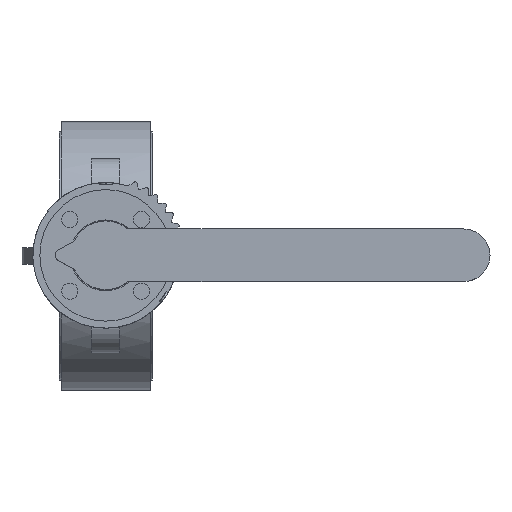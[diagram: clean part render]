
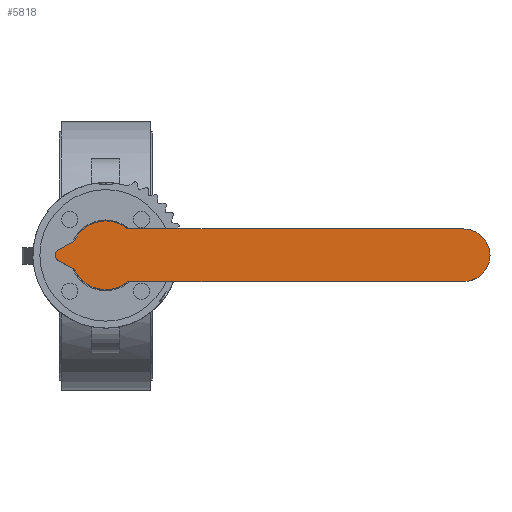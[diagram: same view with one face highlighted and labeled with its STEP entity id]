
A CAD part, top view. The second image highlights one B-rep face of the part: STEP entity #5818.
In plain terms, the highlighted planar face has unit normal (0, 0, 1).
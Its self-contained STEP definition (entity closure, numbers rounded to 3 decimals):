
#5818=ADVANCED_FACE('',(#11344),#11346,.T.);
#11344=FACE_BOUND('',#11345,.T.);
#11345=EDGE_LOOP('',(#15749,#15750,#15751,#15752,#15753,#15754,#15755,#15756,#15757,
#15758,#15759));
#11346=PLANE('',#11347);
#11347=AXIS2_PLACEMENT_3D('',#11348,#11349,#11350);
#11348=CARTESIAN_POINT('',(-1.545,-4.755,216.));
#11349=DIRECTION('',(0.,0.,1.));
#11350=DIRECTION('',(0.951,-0.309,0.));
#15749=ORIENTED_EDGE('',*,*,#18214,.F.);
#15750=ORIENTED_EDGE('',*,*,#18215,.T.);
#15751=ORIENTED_EDGE('',*,*,#18216,.T.);
#15752=ORIENTED_EDGE('',*,*,#18217,.T.);
#15753=ORIENTED_EDGE('',*,*,#18218,.T.);
#15754=ORIENTED_EDGE('',*,*,#18219,.T.);
#15755=ORIENTED_EDGE('',*,*,#18220,.T.);
#15756=ORIENTED_EDGE('',*,*,#18221,.T.);
#15757=ORIENTED_EDGE('',*,*,#18222,.T.);
#15758=ORIENTED_EDGE('',*,*,#18223,.T.);
#15759=ORIENTED_EDGE('',*,*,#18224,.T.);
#18214=EDGE_CURVE('',#21602,#21603,#21604,.F.);
#18215=EDGE_CURVE('',#21602,#21605,#21606,.T.);
#18216=EDGE_CURVE('',#21605,#21607,#21608,.T.);
#18217=EDGE_CURVE('',#21607,#21609,#21610,.T.);
#18218=EDGE_CURVE('',#21609,#21611,#21612,.T.);
#18219=EDGE_CURVE('',#21611,#21613,#21614,.T.);
#18220=EDGE_CURVE('',#21613,#21615,#21616,.T.);
#18221=EDGE_CURVE('',#21615,#21617,#21618,.T.);
#18222=EDGE_CURVE('',#21617,#21619,#21620,.T.);
#18223=EDGE_CURVE('',#21619,#21621,#21622,.T.);
#18224=EDGE_CURVE('',#21621,#21603,#21623,.T.);
#21602=VERTEX_POINT('',#30555);
#21603=VERTEX_POINT('',#30556);
#21604=CIRCLE('',#30557,13.);
#21605=VERTEX_POINT('',#30561);
#21606=LINE('',#30562,#30563);
#21607=VERTEX_POINT('',#30565);
#21608=CIRCLE('',#30566,17.);
#21609=VERTEX_POINT('',#30570);
#21610=CIRCLE('',#30571,17.);
#21611=VERTEX_POINT('',#30575);
#21612=CIRCLE('',#30576,3.);
#21613=VERTEX_POINT('',#30580);
#21614=LINE('',#30581,#30582);
#21615=VERTEX_POINT('',#30584);
#21616=CIRCLE('',#30585,3.);
#21617=VERTEX_POINT('',#30589);
#21618=LINE('',#30590,#30591);
#21619=VERTEX_POINT('',#30593);
#21620=CIRCLE('',#30594,3.);
#21621=VERTEX_POINT('',#30598);
#21622=CIRCLE('',#30599,17.);
#21623=LINE('',#30603,#30604);
#30555=CARTESIAN_POINT('',(177.,13.,216.));
#30556=CARTESIAN_POINT('',(177.,-13.,216.));
#30557=AXIS2_PLACEMENT_3D('',#30558,#30559,#30560);
#30558=CARTESIAN_POINT('',(177.,0.,216.));
#30559=DIRECTION('',(0.,0.,1.));
#30560=DIRECTION('',(0.,-1.,0.));
#30561=CARTESIAN_POINT('',(10.954,13.,216.));
#30562=CARTESIAN_POINT('',(177.,13.,216.));
#30563=VECTOR('',#30564,1.);
#30564=DIRECTION('',(-1.,0.,0.));
#30565=CARTESIAN_POINT('',(2.659,16.791,216.));
#30566=AXIS2_PLACEMENT_3D('',#30567,#30568,#30569);
#30567=CARTESIAN_POINT('',(0.,0.,216.));
#30568=DIRECTION('',(0.,0.,1.));
#30569=DIRECTION('',(0.644,0.765,0.));
#30570=CARTESIAN_POINT('',(-15.113,7.785,216.));
#30571=AXIS2_PLACEMENT_3D('',#30572,#30573,#30574);
#30572=CARTESIAN_POINT('',(0.,0.,216.));
#30573=DIRECTION('',(0.,0.,1.));
#30574=DIRECTION('',(0.156,0.988,0.));
#30575=CARTESIAN_POINT('',(-16.317,6.539,216.));
#30576=AXIS2_PLACEMENT_3D('',#30577,#30578,#30579);
#30577=CARTESIAN_POINT('',(-17.78,9.159,216.));
#30578=DIRECTION('',(0.,0.,-1.));
#30579=DIRECTION('',(0.889,-0.458,0.));
#30580=CARTESIAN_POINT('',(-23.338,2.619,216.));
#30581=CARTESIAN_POINT('',(-16.317,6.539,216.));
#30582=VECTOR('',#30583,1.);
#30583=DIRECTION('',(-0.873,-0.487,0.));
#30584=CARTESIAN_POINT('',(-23.338,-2.619,216.));
#30585=AXIS2_PLACEMENT_3D('',#30586,#30587,#30588);
#30586=CARTESIAN_POINT('',(-21.876,0.,216.));
#30587=DIRECTION('',(0.,0.,1.));
#30588=DIRECTION('',(-0.487,0.873,0.));
#30589=CARTESIAN_POINT('',(-16.317,-6.539,216.));
#30590=CARTESIAN_POINT('',(-23.338,-2.619,216.));
#30591=VECTOR('',#30592,1.);
#30592=DIRECTION('',(0.873,-0.487,0.));
#30593=CARTESIAN_POINT('',(-15.113,-7.785,216.));
#30594=AXIS2_PLACEMENT_3D('',#30595,#30596,#30597);
#30595=CARTESIAN_POINT('',(-17.78,-9.159,216.));
#30596=DIRECTION('',(0.,0.,-1.));
#30597=DIRECTION('',(0.487,0.873,0.));
#30598=CARTESIAN_POINT('',(10.954,-13.,216.));
#30599=AXIS2_PLACEMENT_3D('',#30600,#30601,#30602);
#30600=CARTESIAN_POINT('',(0.,0.,216.));
#30601=DIRECTION('',(0.,0.,1.));
#30602=DIRECTION('',(-0.889,-0.458,0.));
#30603=CARTESIAN_POINT('',(10.954,-13.,216.));
#30604=VECTOR('',#30605,1.);
#30605=DIRECTION('',(1.,0.,0.));
